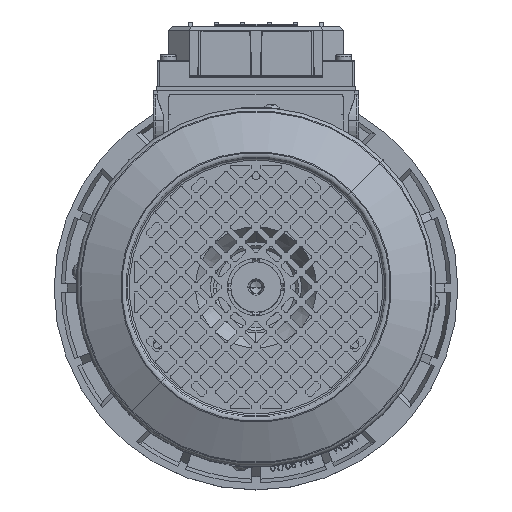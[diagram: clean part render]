
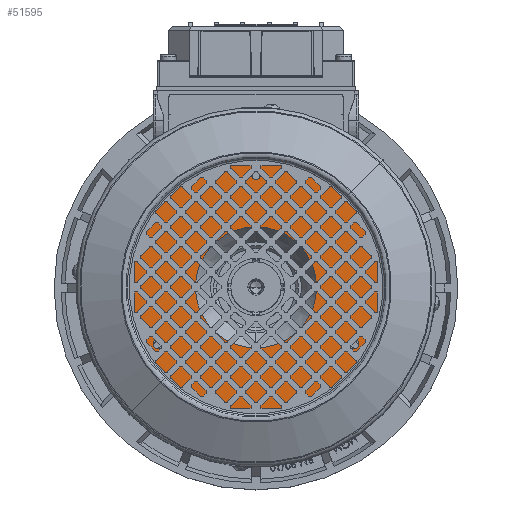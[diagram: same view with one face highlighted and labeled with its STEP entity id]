
A CAD part, top view. The second image highlights one B-rep face of the part: STEP entity #51595.
In plain terms, the highlighted planar face has unit normal (0, 0, 1) as drawn and (0, 1, 0) by its records, which use the part's own axes.
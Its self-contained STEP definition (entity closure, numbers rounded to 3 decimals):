
#2480 = CIRCLE ( 'NONE', #47686, 2.5 ) ;
#5884 = CARTESIAN_POINT ( 'NONE',  ( 0., 36., 56. ) ) ;
#6982 = EDGE_CURVE ( 'NONE', #61654, #104380, #45592, .T. ) ;
#8264 = DIRECTION ( 'NONE',  ( 0., -1., 0. ) ) ;
#8754 = EDGE_LOOP ( 'NONE', ( #115686, #53155 ) ) ;
#8981 = VERTEX_POINT ( 'NONE', #37407 ) ;
#10739 = ORIENTED_EDGE ( 'NONE', *, *, #89340, .T. ) ;
#11276 = AXIS2_PLACEMENT_3D ( 'NONE', #31072, #94157, #40138 ) ;
#14699 = CARTESIAN_POINT ( 'NONE',  ( 0., 36., 0. ) ) ;
#14973 = DIRECTION ( 'NONE',  ( 0., 0., 1. ) ) ;
#15487 = CARTESIAN_POINT ( 'NONE',  ( 0., 36., 67.5 ) ) ;
#15644 = CARTESIAN_POINT ( 'NONE',  ( 0., 36., 0. ) ) ;
#16711 = CARTESIAN_POINT ( 'NONE',  ( -48.497, 36., -28. ) ) ;
#17290 = CARTESIAN_POINT ( 'NONE',  ( 0., 36., 53.5 ) ) ;
#20185 = ORIENTED_EDGE ( 'NONE', *, *, #6982, .F. ) ;
#20569 = FACE_BOUND ( 'NONE', #27902, .T. ) ;
#22241 = AXIS2_PLACEMENT_3D ( 'NONE', #15644, #78709, #24677 ) ;
#23755 = DIRECTION ( 'NONE',  ( 0., 0., 1. ) ) ;
#24391 = VERTEX_POINT ( 'NONE', #37153 ) ;
#24677 = DIRECTION ( 'NONE',  ( 0., 0., 1. ) ) ;
#25778 = DIRECTION ( 'NONE',  ( 0., 0., 1. ) ) ;
#27902 = EDGE_LOOP ( 'NONE', ( #51518, #88062 ) ) ;
#30740 = AXIS2_PLACEMENT_3D ( 'NONE', #89367, #35343, #98471 ) ;
#31072 = CARTESIAN_POINT ( 'NONE',  ( 48.497, 36., -28. ) ) ;
#34360 = AXIS2_PLACEMENT_3D ( 'NONE', #16711, #79792, #25778 ) ;
#35343 = DIRECTION ( 'NONE',  ( 0., 1., 0. ) ) ;
#35794 = AXIS2_PLACEMENT_3D ( 'NONE', #107536, #53391, #116478 ) ;
#37153 = CARTESIAN_POINT ( 'NONE',  ( 0., 36., 30. ) ) ;
#37407 = CARTESIAN_POINT ( 'NONE',  ( 0., 36., -30. ) ) ;
#37857 = EDGE_LOOP ( 'NONE', ( #62390, #83688 ) ) ;
#39400 = DIRECTION ( 'NONE',  ( 0., 1., 0. ) ) ;
#40138 = DIRECTION ( 'NONE',  ( 0., 0., 1. ) ) ;
#41261 = CARTESIAN_POINT ( 'NONE',  ( 0., 36., -67.5 ) ) ;
#43832 = PLANE ( 'NONE',  #74632 ) ;
#44611 = FACE_BOUND ( 'NONE', #68284, .T. ) ;
#45592 = CIRCLE ( 'NONE', #34360, 2.5 ) ;
#46798 = DIRECTION ( 'NONE',  ( 0., 1., 0. ) ) ;
#47550 = EDGE_CURVE ( 'NONE', #8981, #24391, #65035, .T. ) ;
#47686 = AXIS2_PLACEMENT_3D ( 'NONE', #106539, #52418, #115529 ) ;
#48143 = CARTESIAN_POINT ( 'NONE',  ( 48.497, 36., -30.5 ) ) ;
#50739 = CARTESIAN_POINT ( 'NONE',  ( 48.497, 36., -25.5 ) ) ;
#51518 = ORIENTED_EDGE ( 'NONE', *, *, #58649, .F. ) ;
#51595 = ADVANCED_FACE ( 'NONE', ( #44611, #71379, #68573, #20569, #113728 ), #43832, .F. ) ;
#52418 = DIRECTION ( 'NONE',  ( 0., 1., 0. ) ) ;
#53155 = ORIENTED_EDGE ( 'NONE', *, *, #67438, .F. ) ;
#53391 = DIRECTION ( 'NONE',  ( 0., 1., 0. ) ) ;
#55370 = VERTEX_POINT ( 'NONE', #48143 ) ;
#58253 = AXIS2_PLACEMENT_3D ( 'NONE', #100881, #46798, #109924 ) ;
#58649 = EDGE_CURVE ( 'NONE', #24391, #8981, #103209, .T. ) ;
#59802 = AXIS2_PLACEMENT_3D ( 'NONE', #93437, #39400, #102556 ) ;
#61458 = EDGE_CURVE ( 'NONE', #104380, #61654, #2480, .T. ) ;
#61654 = VERTEX_POINT ( 'NONE', #66150 ) ;
#62305 = CARTESIAN_POINT ( 'NONE',  ( 30., 36., 0. ) ) ;
#62390 = ORIENTED_EDGE ( 'NONE', *, *, #84089, .F. ) ;
#64991 = CIRCLE ( 'NONE', #58253, 2.5 ) ;
#65035 = CIRCLE ( 'NONE', #35794, 30. ) ;
#66150 = CARTESIAN_POINT ( 'NONE',  ( -48.497, 36., -25.5 ) ) ;
#67438 = EDGE_CURVE ( 'NONE', #55370, #72853, #107937, .T. ) ;
#67722 = CIRCLE ( 'NONE', #59802, 67.5 ) ;
#68284 = EDGE_LOOP ( 'NONE', ( #20185, #84340 ) ) ;
#68573 = FACE_BOUND ( 'NONE', #37857, .T. ) ;
#69032 = DIRECTION ( 'NONE',  ( 0., 1., 0. ) ) ;
#70044 = EDGE_CURVE ( 'NONE', #103505, #81900, #64991, .T. ) ;
#70624 = EDGE_CURVE ( 'NONE', #90482, #106629, #67722, .T. ) ;
#71358 = DIRECTION ( 'NONE',  ( 0., 0., -1. ) ) ;
#71379 = FACE_BOUND ( 'NONE', #8754, .T. ) ;
#72259 = CARTESIAN_POINT ( 'NONE',  ( -48.497, 36., -30.5 ) ) ;
#72853 = VERTEX_POINT ( 'NONE', #50739 ) ;
#74632 = AXIS2_PLACEMENT_3D ( 'NONE', #62305, #8264, #71358 ) ;
#77788 = DIRECTION ( 'NONE',  ( 0., 1., 0. ) ) ;
#78709 = DIRECTION ( 'NONE',  ( 0., 1., 0. ) ) ;
#79792 = DIRECTION ( 'NONE',  ( 0., 1., 0. ) ) ;
#81900 = VERTEX_POINT ( 'NONE', #98421 ) ;
#83688 = ORIENTED_EDGE ( 'NONE', *, *, #70044, .F. ) ;
#84089 = EDGE_CURVE ( 'NONE', #81900, #103505, #104055, .T. ) ;
#84340 = ORIENTED_EDGE ( 'NONE', *, *, #61458, .F. ) ;
#86145 = CIRCLE ( 'NONE', #89486, 67.5 ) ;
#87676 = EDGE_CURVE ( 'NONE', #72853, #55370, #99198, .T. ) ;
#88062 = ORIENTED_EDGE ( 'NONE', *, *, #47550, .F. ) ;
#89340 = EDGE_CURVE ( 'NONE', #106629, #90482, #86145, .T. ) ;
#89367 = CARTESIAN_POINT ( 'NONE',  ( 48.497, 36., -28. ) ) ;
#89486 = AXIS2_PLACEMENT_3D ( 'NONE', #14699, #77788, #23755 ) ;
#90482 = VERTEX_POINT ( 'NONE', #41261 ) ;
#90908 = ORIENTED_EDGE ( 'NONE', *, *, #70624, .T. ) ;
#93437 = CARTESIAN_POINT ( 'NONE',  ( 0., 36., 0. ) ) ;
#94157 = DIRECTION ( 'NONE',  ( 0., 1., 0. ) ) ;
#95257 = EDGE_LOOP ( 'NONE', ( #10739, #90908 ) ) ;
#98421 = CARTESIAN_POINT ( 'NONE',  ( 0., 36., 58.5 ) ) ;
#98471 = DIRECTION ( 'NONE',  ( 0., 0., 1. ) ) ;
#99198 = CIRCLE ( 'NONE', #11276, 2.5 ) ;
#100881 = CARTESIAN_POINT ( 'NONE',  ( 0., 36., 56. ) ) ;
#102556 = DIRECTION ( 'NONE',  ( 0., 0., 1. ) ) ;
#103209 = CIRCLE ( 'NONE', #22241, 30. ) ;
#103505 = VERTEX_POINT ( 'NONE', #17290 ) ;
#104055 = CIRCLE ( 'NONE', #115258, 2.5 ) ;
#104380 = VERTEX_POINT ( 'NONE', #72259 ) ;
#106539 = CARTESIAN_POINT ( 'NONE',  ( -48.497, 36., -28. ) ) ;
#106629 = VERTEX_POINT ( 'NONE', #15487 ) ;
#107536 = CARTESIAN_POINT ( 'NONE',  ( 0., 36., 0. ) ) ;
#107937 = CIRCLE ( 'NONE', #30740, 2.5 ) ;
#109924 = DIRECTION ( 'NONE',  ( 0., 0., 1. ) ) ;
#113728 = FACE_OUTER_BOUND ( 'NONE', #95257, .T. ) ;
#115258 = AXIS2_PLACEMENT_3D ( 'NONE', #5884, #69032, #14973 ) ;
#115529 = DIRECTION ( 'NONE',  ( 0., 0., 1. ) ) ;
#115686 = ORIENTED_EDGE ( 'NONE', *, *, #87676, .F. ) ;
#116478 = DIRECTION ( 'NONE',  ( 0., 0., 1. ) ) ;
